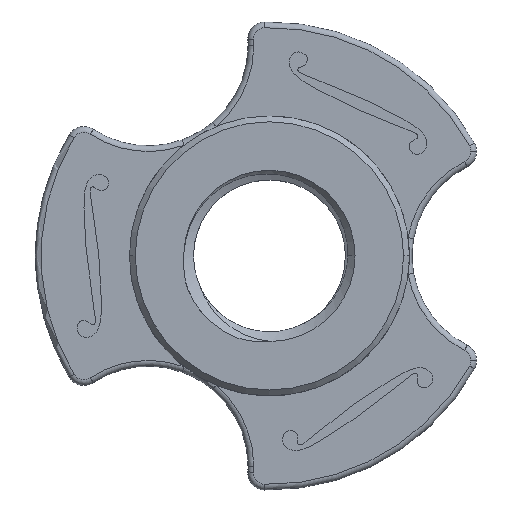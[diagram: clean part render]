
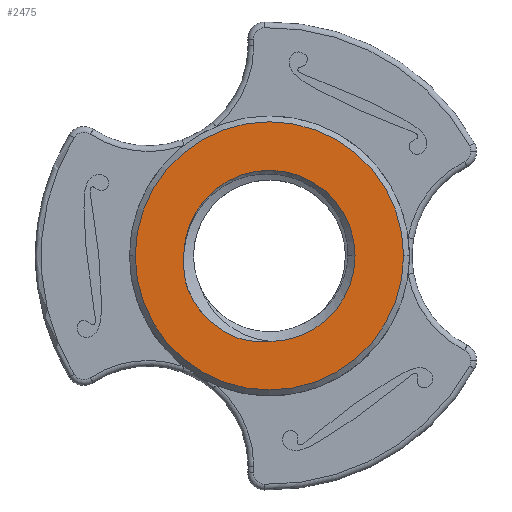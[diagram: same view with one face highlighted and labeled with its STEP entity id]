
A CAD part, top view. The second image highlights one B-rep face of the part: STEP entity #2475.
In plain terms, the highlighted planar face has unit normal (0, 0, 1) as drawn and (0, 1, 0) by its records, which use the part's own axes.
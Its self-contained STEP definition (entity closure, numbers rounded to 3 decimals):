
#65 = CARTESIAN_POINT ( 'NONE',  ( 0.444, 12., 14.993 ) ) ;
#227 = CARTESIAN_POINT ( 'NONE',  ( -9.415, 12., 12.279 ) ) ;
#303 = CARTESIAN_POINT ( 'NONE',  ( -12.299, 12., 9.43 ) ) ;
#444 = AXIS2_PLACEMENT_3D ( 'NONE', #11076, #10271, #6073 ) ;
#746 = CIRCLE ( 'NONE', #444, 15. ) ;
#788 = CARTESIAN_POINT ( 'NONE',  ( -4.876, 12., 14.635 ) ) ;
#935 = CARTESIAN_POINT ( 'NONE',  ( 0., 12., 0. ) ) ;
#1030 = CARTESIAN_POINT ( 'NONE',  ( -15.037, 12., 2.24 ) ) ;
#1089 = CARTESIAN_POINT ( 'NONE',  ( 15., 12., 0. ) ) ;
#1099 = CARTESIAN_POINT ( 'NONE',  ( -10.2, 12., 11.636 ) ) ;
#1124 = EDGE_CURVE ( 'NONE', #6181, #3069, #3574, .T. ) ;
#1633 = EDGE_CURVE ( 'NONE', #3069, #8863, #10959, .T. ) ;
#1718 = EDGE_CURVE ( 'NONE', #7472, #7364, #10223, .T. ) ;
#1801 = CARTESIAN_POINT ( 'NONE',  ( -14.295, 12., 5.902 ) ) ;
#1989 = ORIENTED_EDGE ( 'NONE', *, *, #1124, .T. ) ;
#2171 = ORIENTED_EDGE ( 'NONE', *, *, #8107, .T. ) ;
#2270 = DIRECTION ( 'NONE',  ( 1., 0., 0. ) ) ;
#2344 = CARTESIAN_POINT ( 'NONE',  ( 0., 12., 0. ) ) ;
#2444 = CARTESIAN_POINT ( 'NONE',  ( -2.239, 12., 15.037 ) ) ;
#2475 = ADVANCED_FACE ( 'NONE', ( #5960, #3703 ), #5983, .F. ) ;
#2551 = CARTESIAN_POINT ( 'NONE',  ( -5.902, 12., 14.295 ) ) ;
#2685 = CARTESIAN_POINT ( 'NONE',  ( -15.068, 12., 1.706 ) ) ;
#2942 = AXIS2_PLACEMENT_3D ( 'NONE', #2344, #8369, #2270 ) ;
#3069 = VERTEX_POINT ( 'NONE', #6537 ) ;
#3500 = DIRECTION ( 'NONE',  ( 0., -1., 0. ) ) ;
#3574 = B_SPLINE_CURVE_WITH_KNOTS ( 'NONE', 3,
 ( #1801, #9514, #7885, #1030, #2685, #7780, #4432, #5222 ),
 .UNSPECIFIED., .F., .F.,
 ( 4, 2, 2, 4 ),
 ( 0., 0.003, 0.005, 0.006 ),
 .UNSPECIFIED. ) ;
#3703 = FACE_OUTER_BOUND ( 'NONE', #4153, .T. ) ;
#4116 = EDGE_CURVE ( 'NONE', #7364, #6181, #4661, .T. ) ;
#4153 = EDGE_LOOP ( 'NONE', ( #10186, #2171 ) ) ;
#4432 = CARTESIAN_POINT ( 'NONE',  ( -15.048, 12., 0.088 ) ) ;
#4605 = DIRECTION ( 'NONE',  ( 0., -1., 0. ) ) ;
#4661 = B_SPLINE_CURVE_WITH_KNOTS ( 'NONE', 3,
 ( #7069, #7952, #10523, #10597, #227, #1099, #7106, #7993, #303, #8066, #10560, #6268 ),
 .UNSPECIFIED., .F., .F.,
 ( 4, 2, 2, 2, 2, 4 ),
 ( 0., 0.003, 0.005, 0.006, 0.009, 0.012 ),
 .UNSPECIFIED. ) ;
#5026 = AXIS2_PLACEMENT_3D ( 'NONE', #6297, #4605, #8093 ) ;
#5154 = CIRCLE ( 'NONE', #9939, 23.5 ) ;
#5178 = AXIS2_PLACEMENT_3D ( 'NONE', #6098, #3500, #7784 ) ;
#5222 = CARTESIAN_POINT ( 'NONE',  ( -14.993, 12., -0.444 ) ) ;
#5457 = EDGE_CURVE ( 'NONE', #10637, #9657, #5939, .T. ) ;
#5923 = CARTESIAN_POINT ( 'NONE',  ( -1.703, 12., 15.069 ) ) ;
#5939 = CIRCLE ( 'NONE', #2942, 23.5 ) ;
#5960 = FACE_BOUND ( 'NONE', #10111, .T. ) ;
#5983 = PLANE ( 'NONE',  #5178 ) ;
#6015 = ORIENTED_EDGE ( 'NONE', *, *, #1633, .T. ) ;
#6034 = CARTESIAN_POINT ( 'NONE',  ( 0.444, 12., 14.993 ) ) ;
#6073 = DIRECTION ( 'NONE',  ( 1., 0., 0. ) ) ;
#6098 = CARTESIAN_POINT ( 'NONE',  ( -13.3, 12., 0. ) ) ;
#6181 = VERTEX_POINT ( 'NONE', #6492 ) ;
#6268 = CARTESIAN_POINT ( 'NONE',  ( -14.295, 12., 5.902 ) ) ;
#6297 = CARTESIAN_POINT ( 'NONE',  ( 0., 12., 0. ) ) ;
#6492 = CARTESIAN_POINT ( 'NONE',  ( -14.295, 12., 5.902 ) ) ;
#6537 = CARTESIAN_POINT ( 'NONE',  ( -14.993, 12., -0.444 ) ) ;
#6939 = DIRECTION ( 'NONE',  ( 1., 0., 0. ) ) ;
#7069 = CARTESIAN_POINT ( 'NONE',  ( -5.902, 12., 14.295 ) ) ;
#7106 = CARTESIAN_POINT ( 'NONE',  ( -10.577, 12., 11.294 ) ) ;
#7295 = ORIENTED_EDGE ( 'NONE', *, *, #4116, .T. ) ;
#7364 = VERTEX_POINT ( 'NONE', #8437 ) ;
#7472 = VERTEX_POINT ( 'NONE', #65 ) ;
#7609 = CARTESIAN_POINT ( 'NONE',  ( -0.623, 12., 15.073 ) ) ;
#7751 = DIRECTION ( 'NONE',  ( 0., 1., 0. ) ) ;
#7780 = CARTESIAN_POINT ( 'NONE',  ( -15.074, 12., 0.628 ) ) ;
#7784 = DIRECTION ( 'NONE',  ( 1., 0., 0. ) ) ;
#7885 = CARTESIAN_POINT ( 'NONE',  ( -14.862, 12., 3.831 ) ) ;
#7916 = CARTESIAN_POINT ( 'NONE',  ( -23.5, 12., 0. ) ) ;
#7952 = CARTESIAN_POINT ( 'NONE',  ( -6.841, 12., 13.907 ) ) ;
#7993 = CARTESIAN_POINT ( 'NONE',  ( -11.652, 12., 10.219 ) ) ;
#8066 = CARTESIAN_POINT ( 'NONE',  ( -13.427, 12., 7.74 ) ) ;
#8093 = DIRECTION ( 'NONE',  ( 1., 0., 0. ) ) ;
#8107 = EDGE_CURVE ( 'NONE', #9657, #10637, #5154, .T. ) ;
#8369 = DIRECTION ( 'NONE',  ( 0., 1., 0. ) ) ;
#8437 = CARTESIAN_POINT ( 'NONE',  ( -5.902, 12., 14.295 ) ) ;
#8505 = CARTESIAN_POINT ( 'NONE',  ( -0.087, 12., 15.048 ) ) ;
#8863 = VERTEX_POINT ( 'NONE', #1089 ) ;
#9020 = CARTESIAN_POINT ( 'NONE',  ( 23.5, 12., 0. ) ) ;
#9514 = CARTESIAN_POINT ( 'NONE',  ( -14.635, 12., 4.875 ) ) ;
#9657 = VERTEX_POINT ( 'NONE', #7916 ) ;
#9689 = ORIENTED_EDGE ( 'NONE', *, *, #1718, .T. ) ;
#9939 = AXIS2_PLACEMENT_3D ( 'NONE', #935, #7751, #6939 ) ;
#10111 = EDGE_LOOP ( 'NONE', ( #6015, #10425, #9689, #7295, #1989 ) ) ;
#10186 = ORIENTED_EDGE ( 'NONE', *, *, #5457, .T. ) ;
#10223 = B_SPLINE_CURVE_WITH_KNOTS ( 'NONE', 3,
 ( #6034, #8505, #7609, #5923, #2444, #11043, #788, #2551 ),
 .UNSPECIFIED., .F., .F.,
 ( 4, 2, 2, 4 ),
 ( 0.022, 0.023, 0.025, 0.028 ),
 .UNSPECIFIED. ) ;
#10271 = DIRECTION ( 'NONE',  ( 0., -1., 0. ) ) ;
#10425 = ORIENTED_EDGE ( 'NONE', *, *, #10844, .T. ) ;
#10523 = CARTESIAN_POINT ( 'NONE',  ( -7.74, 12., 13.427 ) ) ;
#10560 = CARTESIAN_POINT ( 'NONE',  ( -13.907, 12., 6.841 ) ) ;
#10597 = CARTESIAN_POINT ( 'NONE',  ( -9.008, 12., 12.581 ) ) ;
#10637 = VERTEX_POINT ( 'NONE', #9020 ) ;
#10844 = EDGE_CURVE ( 'NONE', #8863, #7472, #746, .T. ) ;
#10959 = CIRCLE ( 'NONE', #5026, 15. ) ;
#11043 = CARTESIAN_POINT ( 'NONE',  ( -3.832, 12., 14.862 ) ) ;
#11076 = CARTESIAN_POINT ( 'NONE',  ( 0., 12., 0. ) ) ;
